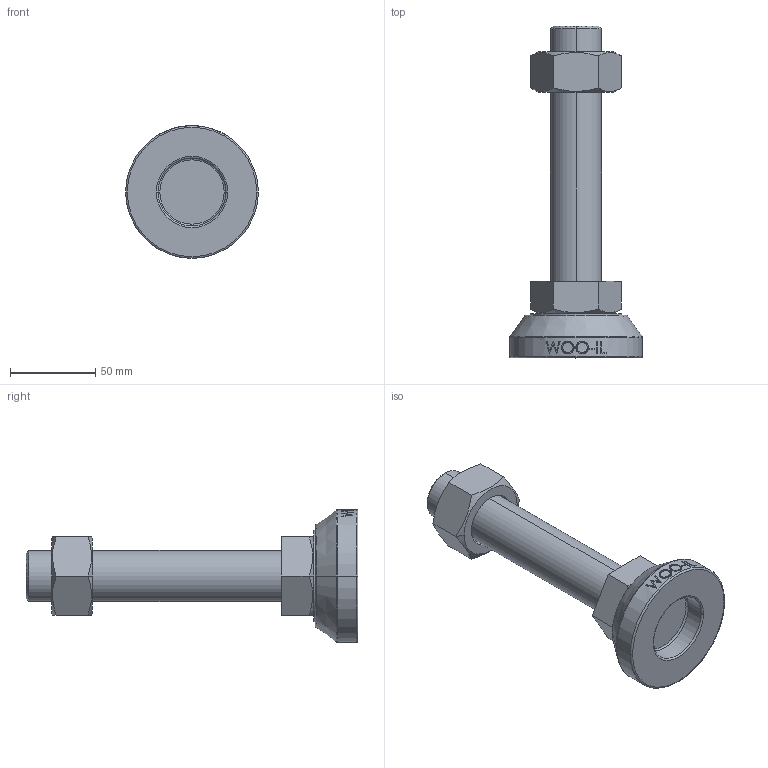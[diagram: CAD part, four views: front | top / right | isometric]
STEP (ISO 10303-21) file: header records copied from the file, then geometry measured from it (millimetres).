
FILE_DESCRIPTION (( 'STEP AP214' ), '1' );
FILE_NAME ('MF78-M30-150.step', '2021-02-03T08:22:53', ( '' ), ( '' ), 'SwSTEP 2.0', 'SolidWorks 2019', '' );
FILE_SCHEMA (( 'AUTOMOTIVE_DESIGN' ));
Length unit declared in the file: millimetre
Products named in the file (2): MF78-M30-150
Bounding box: 78 x 195 x 78 mm (x, y, z)
Volume: 260358.8 mm3; surface area: 44060.8 mm2
Topology: 3 solids, 3 shells, 106 faces, 243 edges, 154 vertices
Faces by surface type: plane 48, cylinder 18, bspline 16, cone 14, torus 10
Entity records: 4556 total; most frequent: CARTESIAN_POINT 2213, ORIENTED_EDGE 486, DIRECTION 439, EDGE_CURVE 243, AXIS2_PLACEMENT_3D 170, VERTEX_POINT 154, EDGE_LOOP 119, FACE_OUTER_BOUND 106
